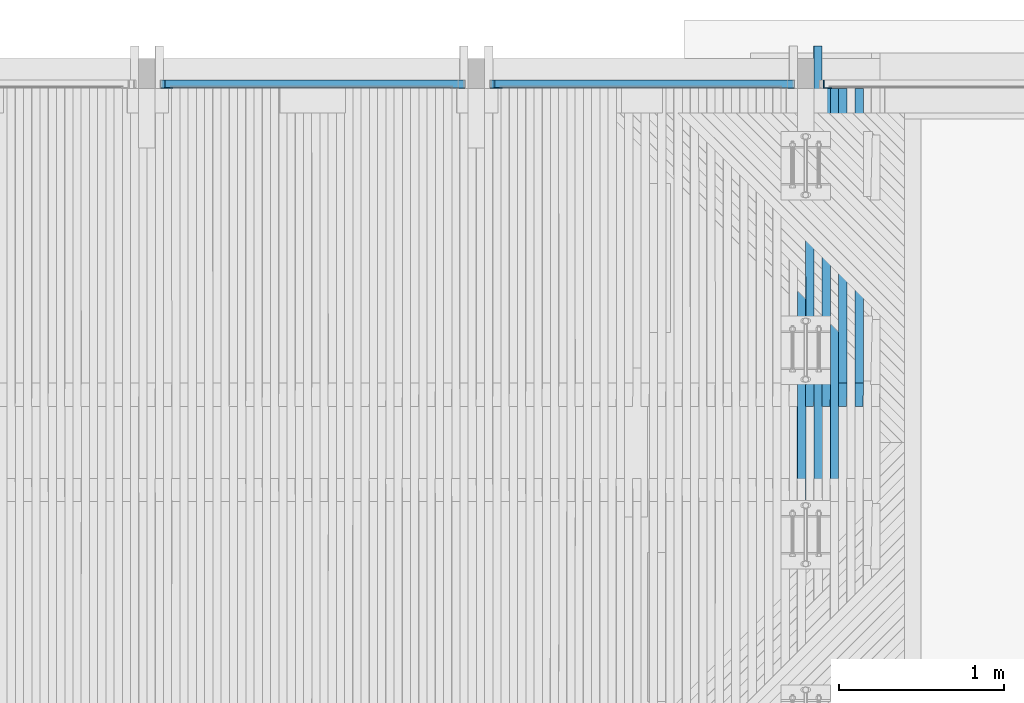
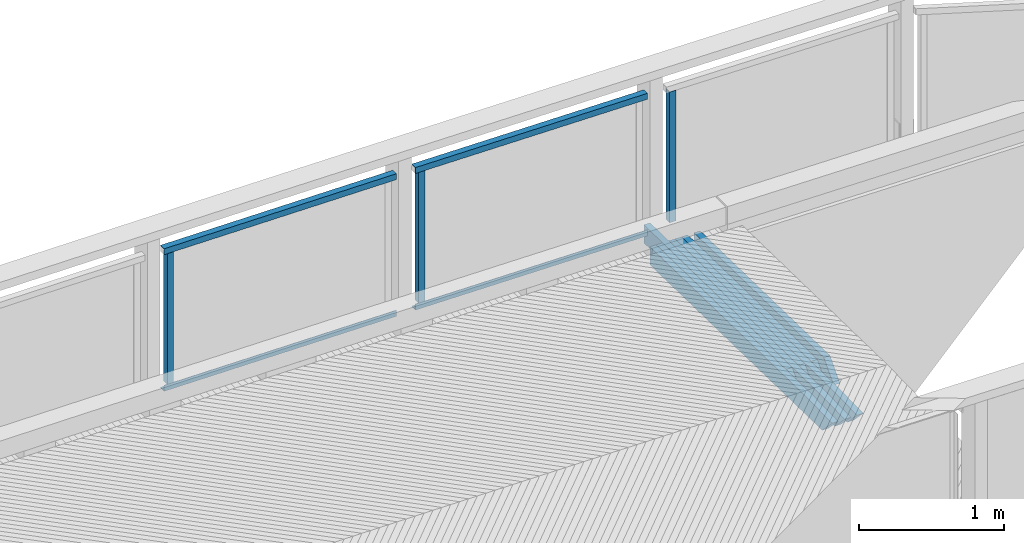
# One storey, part 48 of 65: 14 beams.
"""IFC2X3 building model written with IfcOpenShell, lengths in millimetres."""

from ifc_helpers import new_model, si_unit, frame, origin_with_axes, place, context, subcontext, project, spatial, faceted_brep, material, type_object, element, save


model = new_model("IFC2X3")

# Units and contexts
model_context = context("Model", 3, precision=1e-05, world=origin_with_axes())
body_context = subcontext(model_context, "Body", "Model", "MODEL_VIEW")
ifc_project = project(units=[si_unit("LENGTHUNIT", "METRE", prefix="MILLI"), si_unit("AREAUNIT", "SQUARE_METRE"), si_unit("VOLUMEUNIT", "CUBIC_METRE"), si_unit("MASSUNIT", "GRAM", prefix="KILO"), si_unit("TIMEUNIT", "SECOND"), si_unit("PLANEANGLEUNIT", "RADIAN"), si_unit("SOLIDANGLEUNIT", "STERADIAN"), si_unit("THERMODYNAMICTEMPERATUREUNIT", "DEGREE_CELSIUS"), si_unit("LUMINOUSINTENSITYUNIT", "LUMEN")], contexts=[model_context])

# Site, building, storey
site_placement = place(None, origin_with_axes())
site = spatial("IfcSite", under=ifc_project, at=site_placement, Name="Undefined", CompositionType="ELEMENT")
building_placement = place(site_placement, origin_with_axes())
building = spatial("IfcBuilding", under=site, at=building_placement, Name="Undefined", CompositionType="ELEMENT")
storey_placement = place(building_placement, origin_with_axes())
storey = spatial("IfcBuildingStorey", under=building, at=storey_placement, Name="Undefined", CompositionType="ELEMENT", Elevation=0.0)

# Beams
ifc_material_1 = material(Name="STEEL/S235JR")
beam_type_1 = type_object("IfcBeamType", Name="L50*5", PredefinedType="NOTDEFINED")
beam_1_placement = place(storey_placement, frame((16132.4988327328, 24539.9900000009, 4361.76210743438), z_axis=(0.0, 1.0, 0.0), x_axis=(0.0, 0.0, -1.0)))
element("IfcBeam", 1, at=beam_1_placement, inside=storey, type_object=beam_type_1, material=ifc_material_1, Name="BEAM", ObjectType="L50*5", context=body_context, shape_type="Brep", body=[
    faceted_brep([(0.0, 25.0, -25.0), (0.0, 25.0, 25.0), (1099.99179593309, 25.0, 25.0), (1099.99179593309, 25.0, -25.0), (0.0, 20.0, 25.0), (1099.99179593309, 20.0, 25.0), (0.0, 20.0, -20.0), (1099.99179593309, 20.0, -20.0), (0.0, -25.0, -20.0), (1099.99179593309, -25.0, -20.0), (0.0, -25.0, -25.0), (1099.99179593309, -25.0, -25.0)], [[[0, 1, 2, 3]], [[1, 4, 5, 2]], [[4, 6, 7, 5]], [[6, 8, 9, 7]], [[8, 10, 11, 9]], [[10, 0, 3, 11]], [[5, 7, 9, 11, 3, 2]], [[10, 8, 6, 4, 1, 0]]]),
])
beam_2_placement = place(storey_placement, frame((14132.4988327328, 24539.9900000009, 4385.32340129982), z_axis=(0.0, 1.0, 0.0), x_axis=(0.0, 0.0, -1.0)))
element("IfcBeam", 2, at=beam_2_placement, inside=storey, type_object=beam_type_1, material=ifc_material_1, Name="BEAM", ObjectType="L50*5", context=body_context, shape_type="Brep", body=[
    faceted_brep([(0.0, 25.0, -25.0), (0.0, 25.0, 25.0), (1099.99156352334, 25.0, 25.0), (1099.99156352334, 25.0, -25.0), (0.0, 20.0, 25.0), (1099.99156352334, 20.0, 25.0), (0.0, 20.0, -20.0), (1099.99156352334, 20.0, -20.0), (0.0, -25.0, -20.0), (1099.99156352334, -25.0, -20.0), (0.0, -25.0, -25.0), (1099.99156352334, -25.0, -25.0)], [[[0, 1, 2, 3]], [[1, 4, 5, 2]], [[4, 6, 7, 5]], [[6, 8, 9, 7]], [[8, 10, 11, 9]], [[10, 0, 3, 11]], [[5, 7, 9, 11, 3, 2]], [[10, 8, 6, 4, 1, 0]]]),
])
beam_3_placement = place(storey_placement, frame((12132.4988327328, 24539.9900000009, 4402.25800995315), z_axis=(0.0, 1.0, 0.0), x_axis=(0.0, 0.0, -1.0)))
element("IfcBeam", 3, at=beam_3_placement, inside=storey, type_object=beam_type_1, material=ifc_material_1, Name="BEAM", ObjectType="L50*5", context=body_context, shape_type="Brep", body=[
    faceted_brep([(0.0, 25.0, -25.0), (0.0, 25.0, 25.0), (1099.9980148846, 25.0, 25.0), (1099.9980148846, 25.0, -25.0), (0.0, 20.0, 25.0), (1099.9980148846, 20.0, 25.0), (0.0, 20.0, -20.0), (1099.9980148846, 20.0, -20.0), (0.0, -25.0, -20.0), (1099.9980148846, -25.0, -20.0), (0.0, -25.0, -25.0), (1099.9980148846, -25.0, -25.0)], [[[0, 1, 2, 3]], [[1, 4, 5, 2]], [[4, 6, 7, 5]], [[6, 8, 9, 7]], [[8, 10, 11, 9]], [[10, 0, 3, 11]], [[5, 7, 9, 11, 3, 2]], [[10, 8, 6, 4, 1, 0]]]),
])
beam_4_placement = place(storey_placement, frame((14083.2915434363, 24539.9899999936, 3260.6116986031), z_axis=(0.0, 1.0, 0.0), x_axis=(0.999932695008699, 0.0, -0.011601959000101)))
element("IfcBeam", 4, at=beam_4_placement, inside=storey, type_object=beam_type_1, material=ifc_material_1, Name="BEAM", ObjectType="L50*5", context=body_context, shape_type="Brep", body=[
    faceted_brep([(0.0, 25.0, -25.0), (0.0, 25.0, 25.0), (1849.12178416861, 25.0, 25.0), (1849.12178416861, 25.0, -25.0), (0.0, 20.0, 25.0), (1849.1217841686, 20.0, 25.0), (0.0, 20.0, -20.0), (1849.1217841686, 20.0, -20.0), (0.0, -25.0, -20.0), (1849.1217841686, -25.0, -20.0), (0.0, -25.0, -25.0), (1849.1217841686, -25.0, -25.0)], [[[0, 1, 2, 3]], [[1, 4, 5, 2]], [[4, 6, 7, 5]], [[6, 8, 9, 7]], [[8, 10, 11, 9]], [[10, 0, 3, 11]], [[5, 7, 9, 11, 3, 2]], [[10, 8, 6, 4, 1, 0]]]),
])
beam_5_placement = place(storey_placement, frame((12083.2097740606, 24539.9899999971, 3277.46078661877), z_axis=(0.0, 1.0, 0.0), x_axis=(0.999965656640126, 0.0, -0.00828767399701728)))
element("IfcBeam", 5, at=beam_5_placement, inside=storey, type_object=beam_type_1, material=ifc_material_1, Name="BEAM", ObjectType="L50*5", context=body_context, shape_type="Brep", body=[
    faceted_brep([(0.0, 25.0, -25.0), (0.0, 25.0, 25.0), (1849.05915089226, 25.0, 25.0), (1849.05915089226, 25.0, -25.0), (0.0, 20.0, 25.0), (1849.05915089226, 19.9999999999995, 25.0), (0.0, 20.0, -20.0), (1849.05915089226, 19.9999999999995, -20.0), (0.0, -25.0, -20.0), (1849.05915089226, -25.0, -20.0), (0.0, -25.0, -25.0), (1849.05915089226, -25.0, -25.0)], [[[0, 1, 2, 3]], [[1, 4, 5, 2]], [[4, 6, 7, 5]], [[6, 8, 9, 7]], [[8, 10, 11, 9]], [[10, 0, 3, 11]], [[5, 7, 9, 11, 3, 2]], [[10, 8, 6, 4, 1, 0]]]),
])
beam_6_placement = place(storey_placement, frame((15931.7087745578, 24539.9900000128, 4389.15857743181), z_axis=(0.0, 1.0, 0.0), x_axis=(-0.999932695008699, 0.0, 0.0116019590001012)))
element("IfcBeam", 6, at=beam_6_placement, inside=storey, type_object=beam_type_1, material=ifc_material_1, Name="BEAM", ObjectType="L50*5", context=body_context, shape_type="Brep", body=[
    faceted_brep([(0.0, 25.0, -25.0), (0.0, 25.0, 25.0), (1849.12178416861, 25.0, 25.0), (1849.12178416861, 25.0, -25.0), (0.0, 20.0, 25.0), (1849.1217841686, 20.0, 25.0), (0.0, 20.0, -20.0), (1849.1217841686, 20.0, -20.0), (0.0, -25.0, -20.0), (1849.1217841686, -25.0, -20.0), (0.0, -25.0, -25.0), (1849.1217841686, -25.0, -25.0)], [[[0, 1, 2, 3]], [[1, 4, 5, 2]], [[4, 6, 7, 5]], [[6, 8, 9, 7]], [[8, 10, 11, 9]], [[10, 0, 3, 11]], [[5, 7, 9, 11, 3, 2]], [[10, 8, 6, 4, 1, 0]]]),
])
beam_7_placement = place(storey_placement, frame((13931.7910383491, 24539.9899999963, 4412.13886677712), z_axis=(0.0, 1.0, 0.0), x_axis=(-0.999965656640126, 0.0, 0.00828767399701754)))
element("IfcBeam", 7, at=beam_7_placement, inside=storey, type_object=beam_type_1, material=ifc_material_1, Name="BEAM", ObjectType="L50*5", context=body_context, shape_type="Brep", body=[
    faceted_brep([(0.0, 25.0, -25.0), (0.0, 25.0, 25.0), (1849.05915089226, 25.0, 25.0), (1849.05915089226, 25.0, -25.0), (0.0, 20.0, 25.0), (1849.05915089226, 19.9999999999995, 25.0), (0.0, 20.0, -20.0), (1849.05915089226, 19.9999999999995, -20.0), (0.0, -25.0, -20.0), (1849.05915089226, -25.0, -20.0), (0.0, -25.0, -25.0), (1849.05915089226, -25.0, -25.0)], [[[0, 1, 2, 3]], [[1, 4, 5, 2]], [[4, 6, 7, 5]], [[6, 8, 9, 7]], [[8, 10, 11, 9]], [[10, 0, 3, 11]], [[5, 7, 9, 11, 3, 2]], [[10, 8, 6, 4, 1, 0]]]),
])
ifc_material_2 = material(Name="TIMBER/Timber_Undefined")
beam_type_2 = type_object("IfcBeamType", Name="150*50", PredefinedType="NOTDEFINED")
beam_8_placement = place(storey_placement, frame((16324.1883764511, 24513.4953923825, 3035.57025962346), z_axis=(0.013832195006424, 0.0199960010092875, 0.999704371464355), x_axis=(0.000276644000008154, -0.999800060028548, 0.0199940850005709)))
element("IfcBeam", 8, at=beam_8_placement, inside=storey, type_object=beam_type_2, material=ifc_material_2, Name="BEAM", ObjectType="150*50", context=body_context, shape_type="Brep", body=[
    faceted_brep([(-1.6778358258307e-07, -24.9999999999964, -74.9999999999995), (1.67790858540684e-07, -24.9999999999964, 75.0000000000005), (1.67790858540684e-07, 25.0000000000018, 74.9999999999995), (-1.6778358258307e-07, 25.0000000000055, -75.0), (1789.96936408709, 24.9999999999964, 75.0), (1928.42646328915, 24.9999999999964, -75.0), (1928.42646353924, -25.0, -75.0000000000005), (1789.96936433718, -25.0000000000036, 74.9999999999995)], [[[0, 1, 2, 3]], [[3, 2, 4, 5]], [[0, 3, 5, 6]], [[1, 0, 6, 7]], [[2, 1, 7, 4]], [[5, 4, 7, 6]]]),
])
beam_9_placement = place(storey_placement, frame((16174.162435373, 24513.4953923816, 3037.62877245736), z_axis=(0.0134999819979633, 0.0199960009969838, 0.999708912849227), x_axis=(0.000269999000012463, -0.999800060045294, 0.0199941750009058)))
element("IfcBeam", 9, at=beam_9_placement, inside=storey, type_object=beam_type_2, material=ifc_material_2, Name="BEAM", ObjectType="150*50", context=body_context, shape_type="Brep", body=[
    faceted_brep([(-1.6778358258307e-07, -24.9999999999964, -74.9999999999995), (-1.6778358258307e-07, 25.0000000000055, -75.0), (2375.00494422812, 25.0000000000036, -75.0), (2375.00494447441, -24.9999999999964, -74.9999999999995), (1.67790858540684e-07, -24.9999999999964, 75.0000000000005), (1.67790858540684e-07, 25.0000000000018, 74.9999999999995), (2150.42515052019, 25.0000000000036, 74.9999999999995), (2510.59248715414, 25.0000000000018, 60.5875433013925), (2510.59248714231, -24.9999999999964, 60.5875430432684), (2150.42514405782, -24.9999999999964, 75.0000000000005)], [[[0, 1, 2, 3]], [[0, 4, 5, 1]], [[2, 1, 5, 6, 7]], [[3, 2, 7, 8]], [[4, 0, 3, 8, 9]], [[5, 4, 9, 6]], [[8, 7, 6, 9]]]),
])
for number, where, z_axis, x_axis, name in (
    (10, (16224.1777953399, 24513.4953923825, 3036.94505937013), (0.0136660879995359, 0.0199960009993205, 0.999706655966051), (0.000273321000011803, -0.999800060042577, 0.0199941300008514), "BEAM"),
    (11, (16124.166987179, 24513.4953923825, 3038.30324180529), (0.0134999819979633, 0.0199960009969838, 0.999708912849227), (0.000269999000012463, -0.999800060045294, 0.0199941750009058), "BEAM"),
):
    element("IfcBeam", number, at=place(storey_placement, frame(where, z_axis=z_axis, x_axis=x_axis)), inside=storey, type_object=beam_type_2, material=ifc_material_2, Name=name, ObjectType="150*50", context=body_context, shape_type="Brep", body=[
        faceted_brep([(-1.6778358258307e-07, -24.9999999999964, -74.9999999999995), (1.67790858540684e-07, -24.9999999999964, 75.0000000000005), (1.67790858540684e-07, 25.0000000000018, 74.9999999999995), (-1.6778358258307e-07, 25.0000000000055, -75.0), (1789.96936408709, 24.9999999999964, 75.0), (1928.42646328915, 24.9999999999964, -75.0), (1928.42646353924, -25.0, -75.0000000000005), (1789.96936433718, -25.0000000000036, 74.9999999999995)], [[[0, 1, 2, 3]], [[3, 2, 4, 5]], [[0, 3, 5, 6]], [[1, 0, 6, 7]], [[2, 1, 7, 4]], [[5, 4, 7, 6]]]),
    ])
beam_10_placement = place(storey_placement, frame((15974.1403703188, 24513.4953923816, 3040.31189930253), z_axis=(0.0131677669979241, 0.019996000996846, 0.999713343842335), x_axis=(0.00026335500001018, -0.999800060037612, 0.0199942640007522)))
element("IfcBeam", 12, at=beam_10_placement, inside=storey, type_object=beam_type_2, material=ifc_material_2, Name="BEAM", ObjectType="150*50", context=body_context, shape_type="Brep", body=[
    faceted_brep([(-1.6778358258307e-07, -24.9999999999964, -74.9999999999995), (-1.6778358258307e-07, 25.0000000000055, -75.0), (2375.00494422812, 25.0000000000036, -75.0), (2375.00494447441, -24.9999999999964, -74.9999999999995), (1.67790858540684e-07, -24.9999999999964, 75.0000000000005), (1.67790858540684e-07, 25.0000000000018, 74.9999999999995), (2150.42515052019, 25.0000000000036, 74.9999999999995), (2510.59248715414, 25.0000000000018, 60.5875433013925), (2510.59248714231, -24.9999999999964, 60.5875430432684), (2150.42514405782, -24.9999999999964, 75.0000000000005)], [[[0, 1, 2, 3]], [[0, 4, 5, 1]], [[2, 1, 5, 6, 7]], [[3, 2, 7, 8]], [[4, 0, 3, 8, 9]], [[5, 4, 9, 6]], [[8, 7, 6, 9]]]),
])
beam_11_placement = place(storey_placement, frame((16024.1559547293, 24513.4953923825, 3039.64480689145), z_axis=(0.0133338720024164, 0.0199960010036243, 0.999711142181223), x_axis=(0.000266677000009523, -0.999800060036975, 0.0199942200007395)))
element("IfcBeam", 13, at=beam_11_placement, inside=storey, type_object=beam_type_2, material=ifc_material_2, Name="BEAM", ObjectType="150*50", context=body_context, shape_type="Brep", body=[
    faceted_brep([(-1.6778358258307e-07, -24.9999999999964, -74.9999999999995), (1.67790858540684e-07, -24.9999999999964, 75.0000000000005), (1.67790858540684e-07, 25.0000000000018, 74.9999999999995), (-1.6778358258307e-07, 25.0000000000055, -75.0), (1789.96936408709, 24.9999999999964, 75.0), (1928.42646328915, 24.9999999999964, -75.0), (1928.42646353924, -25.0, -75.0000000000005), (1789.96936433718, -25.0000000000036, 74.9999999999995)], [[[0, 1, 2, 3]], [[3, 2, 4, 5]], [[0, 3, 5, 6]], [[1, 0, 6, 7]], [[2, 1, 7, 4]], [[5, 4, 7, 6]]]),
])
beam_12_placement = place(storey_placement, frame((16074.4422229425, 24771.443807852, 3033.82077916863), z_axis=(0.0133324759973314, 0.0199960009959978, 0.999711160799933), x_axis=(0.000266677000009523, -0.999800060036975, 0.0199942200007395)))
element("IfcBeam", 14, at=beam_12_placement, inside=storey, type_object=beam_type_2, material=ifc_material_2, Name="BEAM", ObjectType="150*50", context=body_context, shape_type="Brep", body=[
    faceted_brep([(-1.6778358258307e-07, -24.9999999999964, -74.9999999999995), (-1.6778358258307e-07, 25.0000000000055, -75.0), (2633.00494750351, 24.9999999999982, -74.9999999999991), (2633.00494763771, -25.0000000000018, -74.9999999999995), (1.67790858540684e-07, -24.9999999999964, 75.0000000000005), (1.67790858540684e-07, 25.0000000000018, 74.9999999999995), (2408.42506824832, 24.9999999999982, 75.0000000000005), (2768.59248710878, 24.9999999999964, 60.587539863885), (2768.59248713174, -25.0000000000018, 60.5875397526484), (2408.42506549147, -25.0000000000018, 75.0000000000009)], [[[0, 1, 2, 3]], [[0, 4, 5, 1]], [[2, 1, 5, 6, 7]], [[3, 2, 7, 8]], [[4, 0, 3, 8, 9]], [[5, 4, 9, 6]], [[8, 7, 6, 9]]]),
])

save(model, "model.ifc")
